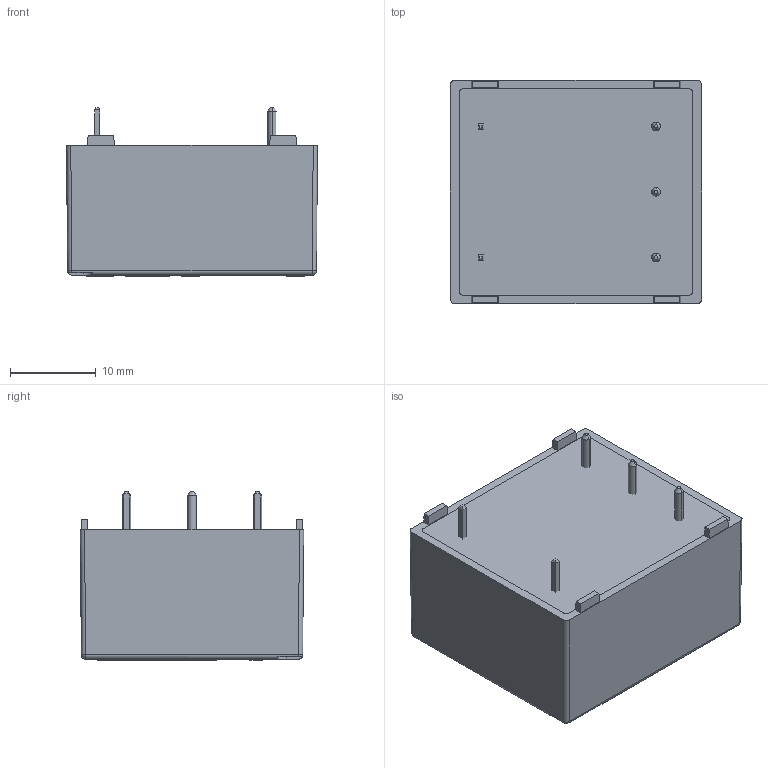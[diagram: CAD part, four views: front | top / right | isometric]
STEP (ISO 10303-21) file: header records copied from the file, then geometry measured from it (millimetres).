
FILE_DESCRIPTION(('CoCreate Modeling STEP Export'),'2;1');
FILE_NAME('LV25-P.stp','2009-01-28T13:50:41',(''),(''),'CoCreate Modeling STEP processor for AP214 (Solid Model)','CoCreate Modeling 16.00A 16-Aug-2008 (C) Parametric Technology GmbH','');
FILE_SCHEMA(('AUTOMOTIVE_DESIGN { 1 0 10303 214 1 1 1 1 }'));
Length unit declared in the file: millimetre
Products named in the file (10): moulage; pin_bobinage.1; pin_bobinage; pins.1.1; pin_mesure_M; pin_mesure_Moins; pin_mesure_Plus; Pins_mesure; boitier_blackbox; LV25-P
Assembly tree (9 placements, depth 3):
  LV25-P
    boitier_blackbox
    Pins_mesure
      pin_mesure_Plus
      pin_mesure_Moins
      pin_mesure_M
    pins.1.1
      pin_bobinage
      pin_bobinage.1
    moulage
Bounding box: 29.2 x 26 x 19.75 mm (x, y, z)
Volume: 11411.7 mm3; surface area: 4940.6 mm2
Topology: 7 solids, 7 shells, 582 faces, 1503 edges, 967 vertices
Faces by surface type: plane 397, cylinder 133, torus 36, cone 12, sphere 4
Entity records: 18871 total; most frequent: CARTESIAN_POINT 5066, ORIENTED_EDGE 3000, DIRECTION 2535, EDGE_CURVE 1500, VECTOR 1103, LINE 1103, VERTEX_POINT 967, AXIS2_PLACEMENT_3D 716
